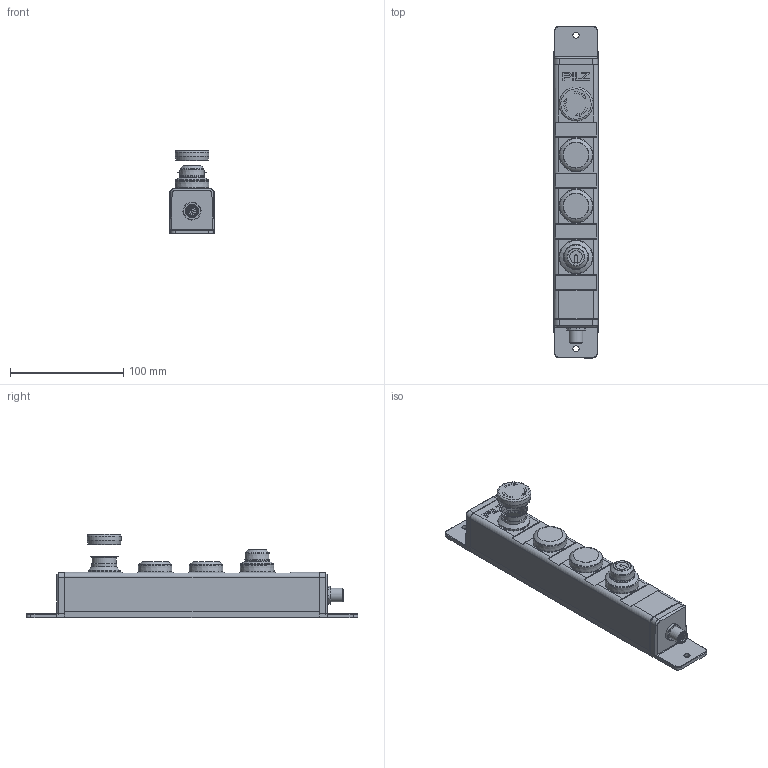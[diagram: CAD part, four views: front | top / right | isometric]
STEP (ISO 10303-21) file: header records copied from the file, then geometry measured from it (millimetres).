
FILE_DESCRIPTION(/* description */ (''),/* implementation_level */ '2;1');
FILE_NAME(/* name */ '2037892_A_PIT_gb_ALLE_y.stp',/* time_stamp */ '2025-06-03T12:11:53+02:00',/* author */ ('EW-PE'),/* organization */ (''),/* preprocessor_version */ 'ST-DEVELOPER v20',/* originating_system */ 'Autodesk Inventor 2024',/* authorisation */ '');
FILE_SCHEMA (('AUTOMOTIVE_DESIGN { 1 0 10303 214 3 1 1 }'));
Length unit declared in the file: millimetre
Products named in the file (4): 2037892; Kundendaten_PIT_gb_ALLE_y; H306916; H306915
Assembly tree (3 placements, depth 2):
  2037892
    Kundendaten_PIT_gb_ALLE_y
    H306916
    H306915
Bounding box: 40 x 293 x 73.65 mm (x, y, z)
Volume: 424055.6 mm3; surface area: 61445.1 mm2
Topology: 8 solids, 8 shells, 602 faces, 1436 edges, 906 vertices
Faces by surface type: cylinder 197, plane 192, cone 132, torus 40, bspline 25, sphere 16
Full cylindrical faces by diameter (mm): 0.6 x12, 1.1 x12, 5.4 x2, 8.3 x1, 9.5 x2, 9.6 x1, 10 x2, 10.6 x1, 11 x1, 12 x1, 12.1 x1, 14 x1, 20 x2, 21.5 x1, 22.2 x1, 22.55 x1, 28 x1, 28.2 x1, 28.6 x3, 29 x1, 29.2 x3
Entity records: 19450 total; most frequent: CARTESIAN_POINT 5447, DIRECTION 2983, ORIENTED_EDGE 2848, EDGE_CURVE 1424, AXIS2_PLACEMENT_3D 1223, VERTEX_POINT 906, EDGE_LOOP 676, CIRCLE 627
